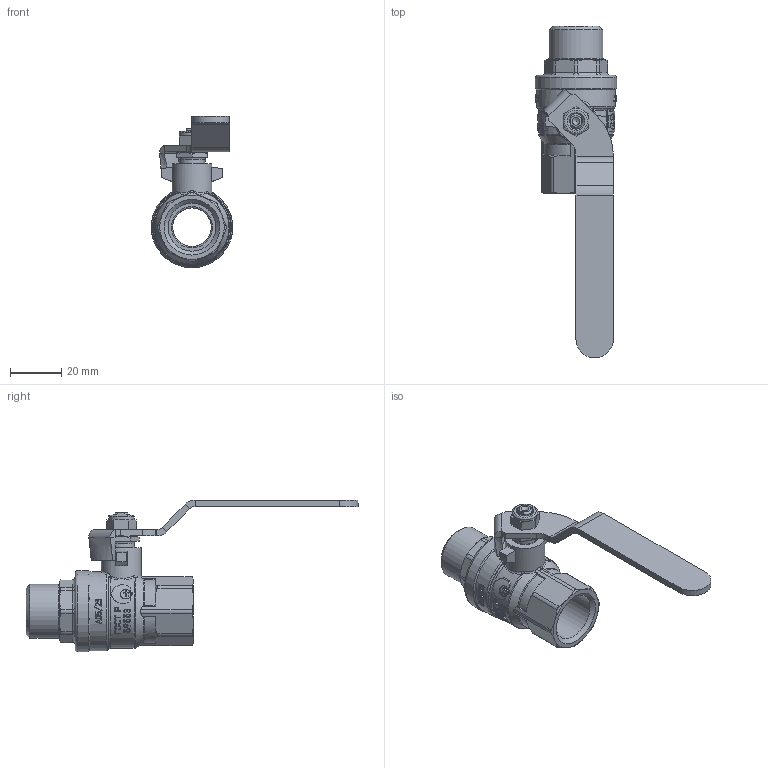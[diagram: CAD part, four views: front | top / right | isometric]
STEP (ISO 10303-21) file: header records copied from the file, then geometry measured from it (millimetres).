
FILE_DESCRIPTION(('STEP AP203'), '1');
FILE_NAME('VT.415.N.04', '2026-04-29T12:16:39', ('User'), ('Vesta'), 'C3D Converter', 'C3D Toolkit', '');
FILE_SCHEMA(('CONFIG_CONTROL_DESIGN'));
Length unit declared in the file: millimetre
Products named in the file (1): ВР.491816.001.000-01
Bounding box: 31.6 x 129.12 x 58.98 mm (x, y, z)
Volume: 30028.1 mm3; surface area: 14751 mm2
Topology: 1 solids, 1 shells, 1219 faces, 3391 edges, 2222 vertices
Faces by surface type: plane 701, extrusion 316, cylinder 106, cone 49, torus 27, bspline 20
Full cylindrical faces by diameter (mm): 0.644 x1, 4 x1, 9.3 x1, 10 x1, 10.2 x1, 15 x5, 15.5 x1, 18.632 x1, 20.955 x1, 30.6 x1, 31.6 x1
Entity records: 49414 total; most frequent: CARTESIAN_POINT 22137, ORIENTED_EDGE 6664, DIRECTION 4211, EDGE_CURVE 3332, VERTEX_POINT 2208, VECTOR 1619, EDGE_LOOP 1314, LINE 1303
